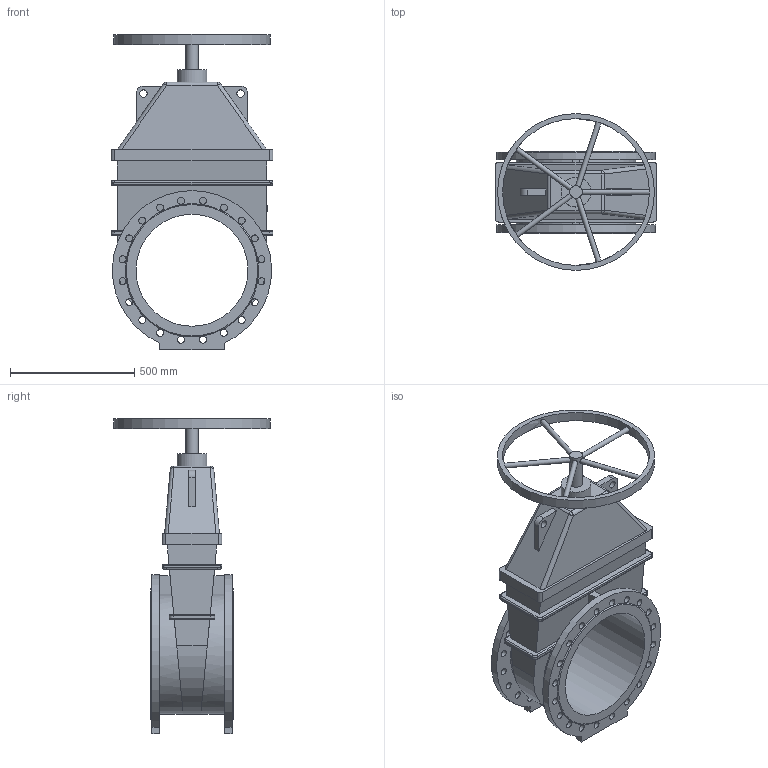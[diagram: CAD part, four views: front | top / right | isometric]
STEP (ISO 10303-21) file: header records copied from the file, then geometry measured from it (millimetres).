
FILE_DESCRIPTION(('STEP AP203'), '1');
FILE_NAME('Çàäâèæêà 47GV DN450 PN10_L330_W630 ñ ìàõîâèêîì', '', ('UNSPECIFIED'), ('UNSPECIFIED'), 'ASCON STEP Converter 1.6', 'ASCON Math Kernel', '');
FILE_SCHEMA(('CONFIG_CONTROL_DESIGN'));
Length unit declared in the file: millimetre
Bounding box: 650 x 630 x 1269 mm (x, y, z)
Volume: 80851506.8 mm3; surface area: 3116707 mm2
Topology: 1 solids, 1 shells, 211 faces, 537 edges, 340 vertices
Faces by surface type: cylinder 107, plane 82, bspline 12, torus 8, cone 2
Full cylindrical faces by diameter (mm): 20 x5, 28 x40, 30 x2, 50 x1, 120 x1, 450 x1, 590 x1, 630 x1
Entity records: 10285 total; most frequent: CARTESIAN_POINT 3512, DIRECTION 1020, ORIENTED_EDGE 956, EDGE_CURVE 478, AXIS2_PLACEMENT_3D 394, EDGE_LOOP 378, VERTEX_POINT 340, FACE_BOUND 271
